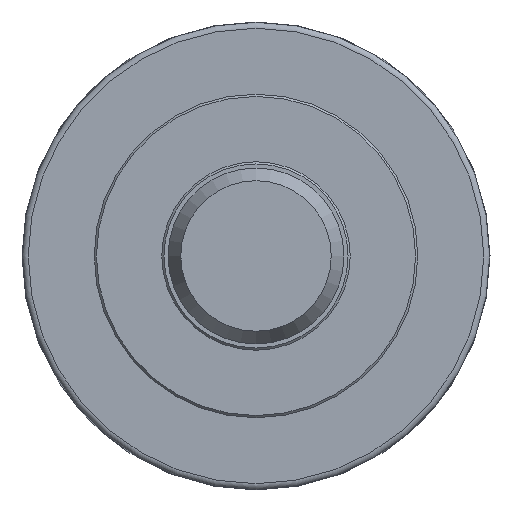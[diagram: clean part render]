
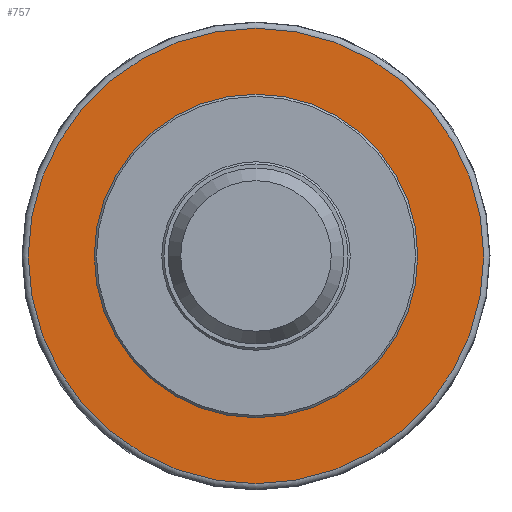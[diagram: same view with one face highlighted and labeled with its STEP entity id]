
A CAD part, left-side view. The second image highlights one B-rep face of the part: STEP entity #757.
In plain terms, the highlighted planar face has unit normal (-1, 0, 0).
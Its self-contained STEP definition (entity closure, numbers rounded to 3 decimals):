
#33=FACE_BOUND('',#176,.T.);
#65=CIRCLE('',#851,72.5);
#66=CIRCLE('',#853,50.5);
#125=FACE_OUTER_BOUND('',#175,.T.);
#175=EDGE_LOOP('',(#618));
#176=EDGE_LOOP('',(#619));
#349=VERTEX_POINT('',#1421);
#350=VERTEX_POINT('',#1425);
#443=EDGE_CURVE('',#349,#349,#65,.T.);
#444=EDGE_CURVE('',#350,#350,#66,.T.);
#618=ORIENTED_EDGE('',*,*,#443,.F.);
#619=ORIENTED_EDGE('',*,*,#444,.T.);
#672=PLANE('',#852);
#757=ADVANCED_FACE('',(#125,#33),#672,.T.);
#851=AXIS2_PLACEMENT_3D('',#1423,#1040,#1041);
#852=AXIS2_PLACEMENT_3D('',#1424,#1042,#1043);
#853=AXIS2_PLACEMENT_3D('',#1426,#1044,#1045);
#1040=DIRECTION('center_axis',(1.,0.,0.));
#1041=DIRECTION('ref_axis',(0.,-1.,0.));
#1042=DIRECTION('center_axis',(-1.,0.,0.));
#1043=DIRECTION('ref_axis',(0.,0.,1.));
#1044=DIRECTION('center_axis',(1.,0.,0.));
#1045=DIRECTION('ref_axis',(0.,1.,0.));
#1421=CARTESIAN_POINT('',(-30.,0.,72.5));
#1423=CARTESIAN_POINT('Origin',(-30.,0.,0.));
#1424=CARTESIAN_POINT('Origin',(-30.,62.5,0.));
#1425=CARTESIAN_POINT('',(-30.,-50.5,0.));
#1426=CARTESIAN_POINT('Origin',(-30.,0.,0.));
